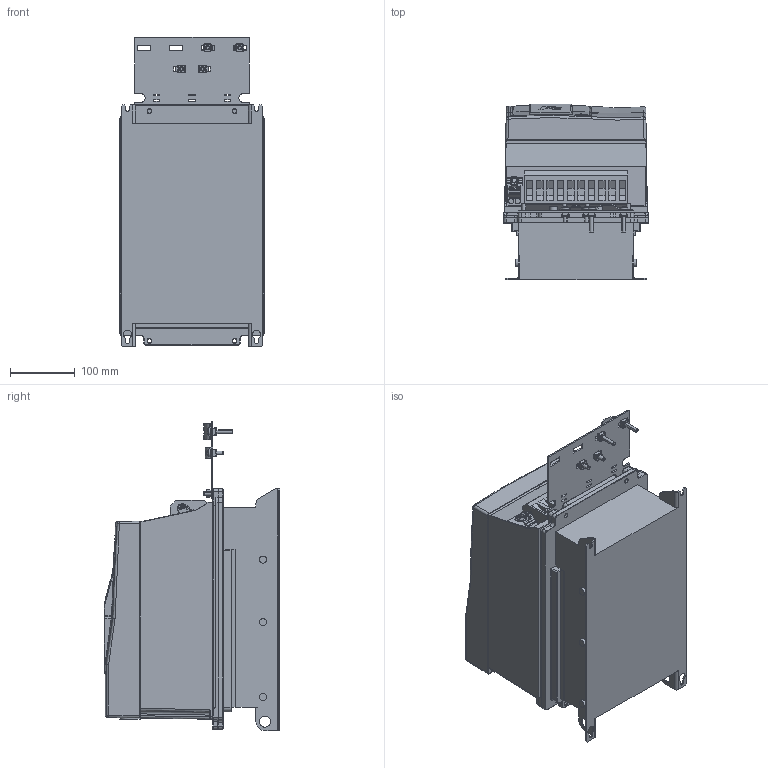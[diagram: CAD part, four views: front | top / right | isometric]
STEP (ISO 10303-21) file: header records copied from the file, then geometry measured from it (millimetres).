
FILE_DESCRIPTION (( 'STEP AP214' ), '1' );
FILE_NAME ('F6-4TR0-K001.STEP', '2020-12-08T11:05:09', ( '' ), ( '' ), 'SwSTEP 2.0', 'SolidWorks 2019', '' );
FILE_SCHEMA (( 'AUTOMOTIVE_DESIGN' ));
Length unit declared in the file: millimetre
Products named in the file (13): 10044453_000_Schirmung (Kundenmodell); 10059764_000_Blindabdeckung (Kundenmodell); 10058448_000; 10035735_000_Kundenmodell; 10032600_000_Kundenmodell; 10061645_000; 10063070_000; 10058413_000; 10059765_000; 10045808_000_Basis Leistungsteil TR0 (Kundenmodell); 10058468_000; 10061644_000_Deckel (Kundenmodell); F6-4TR0-K001
Assembly tree (12 placements, depth 4):
  F6-4TR0-K001
    10045808_000_Basis Leistungsteil TR0 (Kundenmodell)
      10058468_000
    10032600_000_Kundenmodell
      10061644_000_Deckel (Kundenmodell)
        10061645_000
      10058448_000
    10035735_000_Kundenmodell
      10059764_000_Blindabdeckung (Kundenmodell)
        10059765_000
      10058413_000
    10044453_000_Schirmung (Kundenmodell)
      10063070_000
Bounding box: 224 x 272.2 x 479.7 mm (x, y, z)
Volume: 17513081.6 mm3; surface area: 946852.6 mm2
Topology: 12 solids, 35 shells, 3274 faces, 8685 edges, 5505 vertices
Faces by surface type: plane 1485, cylinder 918, bspline 537, torus 146, cone 140, sphere 48
Entity records: 124125 total; most frequent: CARTESIAN_POINT 45660, ORIENTED_EDGE 17236, DIRECTION 14875, EDGE_CURVE 8618, VERTEX_POINT 5503, AXIS2_PLACEMENT_3D 4971, LINE 4933, VECTOR 4933
